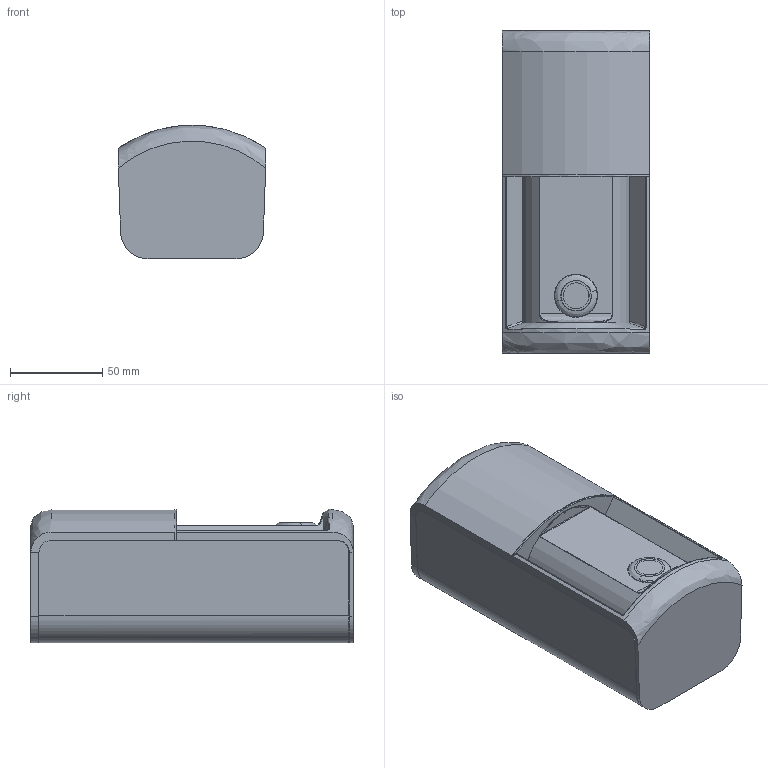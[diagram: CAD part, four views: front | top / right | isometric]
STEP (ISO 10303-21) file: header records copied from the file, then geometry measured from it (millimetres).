
FILE_DESCRIPTION (( 'STEP AP214' ), '1' );
FILE_NAME ('ProAccess_398522_Customer.STEP', '2022-09-08T06:14:14', ( '' ), ( '' ), 'SwSTEP 2.0', 'SolidWorks 2017', '' );
FILE_SCHEMA (( 'AUTOMOTIVE_DESIGN' ));
Length unit declared in the file: millimetre
Products named in the file (2): ProAccess_398522_Customer
Bounding box: 80.28 x 175 x 72.5 mm (x, y, z)
Volume: 725826.6 mm3; surface area: 146627 mm2
Topology: 4 solids, 6 shells, 370 faces, 1003 edges, 659 vertices
Faces by surface type: plane 239, cylinder 71, bspline 45, cone 15
Entity records: 21804 total; most frequent: CARTESIAN_POINT 8957, ORIENTED_EDGE 2006, DIRECTION 1490, EDGE_CURVE 1003, VERTEX_POINT 659, VECTOR 614, LINE 614, AXIS2_PLACEMENT_3D 438
